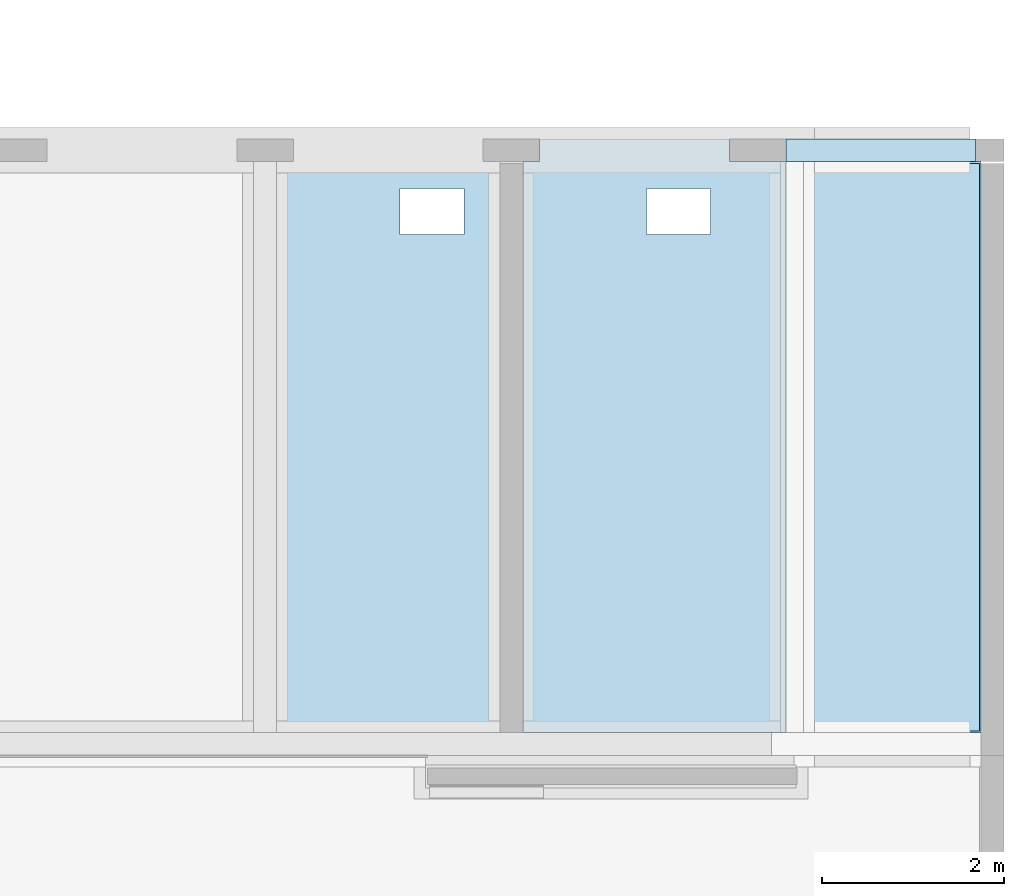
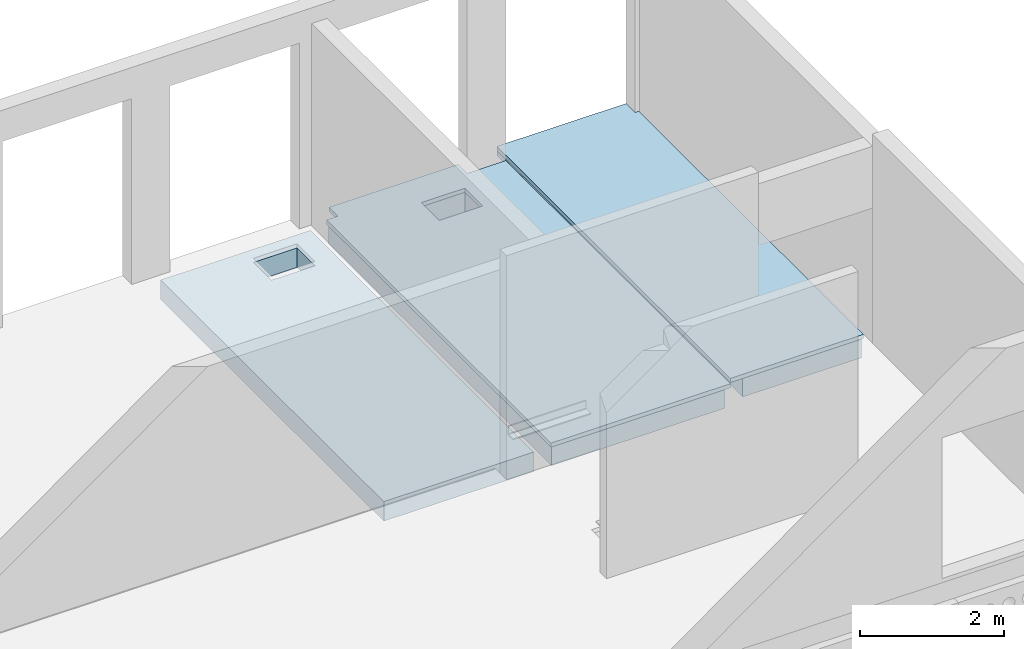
# One storey, part 34 of 60: 6 slabs, 4 openings.
"""IFC2X3 building model written with IfcOpenShell, lengths in millimetres."""

from ifc_helpers import new_model, entity, si_unit, converted_unit, derived_unit, direction, frame, frame_2d, origin, origin_2d_with_axis, place, context, subcontext, project, spatial, polyline, rectangle, outline, extrude, material, layer, layer_set, layer_usage, element, save


model = new_model("IFC2X3")

# Units and contexts
model_context = context("Model", 3, precision=0.01, world=origin(), true_north=direction((6.12303176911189e-17, 1.0)))
body_context = subcontext(model_context, "Body", "Model", "MODEL_VIEW")
ifc_project = project(units=[si_unit("LENGTHUNIT", "METRE", prefix="MILLI"), si_unit("AREAUNIT", "SQUARE_METRE"), si_unit("VOLUMEUNIT", "CUBIC_METRE"), converted_unit("PLANEANGLEUNIT", "DEGREE", entity("IfcRatioMeasure", 0.0174532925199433), si_unit("PLANEANGLEUNIT", "RADIAN"), dimensions=[0, 0, 0, 0, 0, 0, 0]), si_unit("MASSUNIT", "GRAM", prefix="KILO"), derived_unit("MASSDENSITYUNIT", [(si_unit("MASSUNIT", "GRAM", prefix="KILO"), 1), (si_unit("LENGTHUNIT", "METRE"), -3)]), si_unit("TIMEUNIT", "SECOND"), si_unit("FREQUENCYUNIT", "HERTZ"), si_unit("THERMODYNAMICTEMPERATUREUNIT", "DEGREE_CELSIUS"), derived_unit("THERMALTRANSMITTANCEUNIT", [(si_unit("MASSUNIT", "GRAM", prefix="KILO"), 1), (si_unit("THERMODYNAMICTEMPERATUREUNIT", "KELVIN"), -1), (si_unit("TIMEUNIT", "SECOND"), -3)]), derived_unit("VOLUMETRICFLOWRATEUNIT", [(si_unit("LENGTHUNIT", "METRE"), 3), (si_unit("TIMEUNIT", "SECOND"), -1)]), si_unit("ELECTRICCURRENTUNIT", "AMPERE"), si_unit("ELECTRICVOLTAGEUNIT", "VOLT"), si_unit("POWERUNIT", "WATT"), si_unit("FORCEUNIT", "NEWTON", prefix="KILO"), si_unit("ILLUMINANCEUNIT", "LUX"), si_unit("LUMINOUSFLUXUNIT", "LUMEN"), si_unit("LUMINOUSINTENSITYUNIT", "CANDELA"), derived_unit("USERDEFINED", [(si_unit("MASSUNIT", "GRAM", prefix="KILO"), -1), (si_unit("LENGTHUNIT", "METRE"), -2), (si_unit("TIMEUNIT", "SECOND"), 3), (si_unit("LUMINOUSFLUXUNIT", "LUMEN"), 1)]), derived_unit("LINEARVELOCITYUNIT", [(si_unit("LENGTHUNIT", "METRE"), 1), (si_unit("TIMEUNIT", "SECOND"), -1)]), si_unit("PRESSUREUNIT", "PASCAL"), derived_unit("USERDEFINED", [(si_unit("LENGTHUNIT", "METRE"), -2), (si_unit("MASSUNIT", "GRAM", prefix="KILO"), 1), (si_unit("TIMEUNIT", "SECOND"), -2)])], contexts=[model_context])

# Site, building, storey
site_placement = place(None, origin())
site = spatial("IfcSite", under=ifc_project, at=site_placement, Name="Default", CompositionType="ELEMENT")
building_placement = place(site_placement, origin())
building = spatial("IfcBuilding", under=site, at=building_placement, Name="niet gebruiken", CompositionType="ELEMENT")
storey_placement = place(building_placement, origin())
storey = spatial("IfcBuildingStorey", under=building, at=storey_placement, Name="00 begane grond", CompositionType="ELEMENT", Elevation=0.0)

# Slab, openings
ifc_material_1 = material(Name="NLRS_f2_beton prefab")
ifc_layer_1 = layer(ifc_material_1, 200.0)
ifc_material_2 = material(Name="NLRS_n7_isolatie EPS")
ifc_layer_2 = layer(ifc_material_2, 132.0)
ifc_layer_set_1 = layer_set([ifc_layer_1, ifc_layer_2], Name="Floor:NLRS_23.21_FL_geisoleerde kanaalplaat d=200 rc 3.5 iso132_gen")
ifc_layer_usage_1 = layer_usage(ifc_layer_set_1, "AXIS3", "POSITIVE", 0.0)
slab_1_placement = place(storey_placement, frame((116245.0, 46766.0, -492.0)))
slab_1 = element("IfcSlab", 1, at=slab_1_placement, inside=storey, material=ifc_layer_usage_1, Name="Floor:NLRS_23.21_FL_geisoleerde kanaalplaat d=200 rc 3.5 iso132_gen", ObjectType="Floor:NLRS_23.21_FL_geisoleerde kanaalplaat d=200 rc 3.5 iso132_gen", PredefinedType="FLOOR", context=body_context, shape_type="SweptSolid", body=[
    extrude(rectangle(XDim=6220.00000000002, YDim=2410.00000000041, at=frame_2d((0.0, 0.0), x_axis=(0.0, -1.0))), frame((1205.0, 3110.0, 332.0), z_axis=(0.0, 0.0, -1.0), x_axis=(-1.0, 0.0, 0.0)), (0.0, 0.0, 1.0), 332.0),
])
opening_1_placement = place(slab_1_placement, origin())
element("IfcOpeningElement", 2, at=opening_1_placement, cuts=slab_1, ObjectType="Opening", context=body_context, shape_type="SweptSolid", body=[
    extrude(rectangle(XDim=699.999999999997, YDim=499.999999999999, at=origin_2d_with_axis()), frame((1685.0, 5692.50000000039, -48.0), z_axis=(0.0, 0.0, 1.0), x_axis=(-1.0, 0.0, 0.0)), (0.0, 0.0, 1.0), 450.0),
])
opening_2_placement = place(slab_1_placement, origin())
element("IfcOpeningElement", 3, at=opening_2_placement, cuts=slab_1, ObjectType="Opening", context=body_context, shape_type="SweptSolid", body=[
    extrude(rectangle(XDim=699.999999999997, YDim=499.999999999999, at=origin_2d_with_axis()), frame((-6415.0, 5692.50000000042, -48.0), z_axis=(0.0, 0.0, 1.0), x_axis=(-1.0, 0.0, 0.0)), (0.0, 0.0, 1.0), 450.0),
])

# Slab, opening
ifc_layer_usage_2 = layer_usage(ifc_layer_set_1, "AXIS3", "POSITIVE", 0.0)
slab_2_placement = place(storey_placement, frame((118945.0, 46766.0, -492.0)))
slab_2 = element("IfcSlab", 4, at=slab_2_placement, inside=storey, material=ifc_layer_usage_2, Name="Floor:NLRS_23.21_FL_geisoleerde kanaalplaat d=200 rc 3.5 iso132_gen", ObjectType="Floor:NLRS_23.21_FL_geisoleerde kanaalplaat d=200 rc 3.5 iso132_gen", PredefinedType="FLOOR", context=body_context, shape_type="SweptSolid", body=[
    extrude(rectangle(XDim=6220.00000000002, YDim=2784.99903988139, at=frame_2d((0.0, 0.0), x_axis=(0.0, -1.0))), frame((1392.4995199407, 3110.0, 332.0), z_axis=(0.0, 0.0, -1.0), x_axis=(-1.0, 0.0, 0.0)), (0.0, 0.0, 1.0), 332.0),
])
opening_3_placement = place(slab_2_placement, origin())
element("IfcOpeningElement", 5, at=opening_3_placement, cuts=slab_2, ObjectType="Opening", context=body_context, shape_type="SweptSolid", body=[
    extrude(rectangle(XDim=699.999999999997, YDim=499.999999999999, at=origin_2d_with_axis()), frame((1685.0, 5692.5000000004, -48.0), z_axis=(0.0, 0.0, 1.0), x_axis=(-1.0, 0.0, 0.0)), (0.0, 0.0, 1.0), 450.0),
])

# Slabs
ifc_layer_usage_3 = layer_usage(ifc_layer_set_1, "AXIS3", "POSITIVE", 0.0)
slab_3_placement = place(storey_placement, origin())
element("IfcSlab", 6, at=slab_3_placement, inside=storey, material=ifc_layer_usage_3, Name="Floor:NLRS_23.21_FL_geisoleerde kanaalplaat d=200 rc 3.5 iso132_gen", ObjectType="Floor:NLRS_23.21_FL_geisoleerde kanaalplaat d=200 rc 3.5 iso132_gen", PredefinedType="FLOOR", context=body_context, shape_type="SweptSolid", body=[
    extrude(rectangle(XDim=6220.00000000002, YDim=1910.00096011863, at=origin_2d_with_axis()), frame((122974.99951994, 49876.0, -70.0), z_axis=(0.0, 0.0, -1.0), x_axis=(0.0, 1.0, 0.0)), (0.0, 0.0, 1.0), 332.0),
])
ifc_material_3 = material(Name="NLRS_f2_beton ihwg")
ifc_layer_3 = layer(ifc_material_3, 70.0)
ifc_layer_set_2 = layer_set([ifc_layer_3], Name="Floor:NLRS_23.21_FL_druklaag d=70 - gevlinderd_gen")
ifc_layer_usage_4 = layer_usage(ifc_layer_set_2, "AXIS3", "POSITIVE", 0.0)
slab_4_placement = place(storey_placement, origin())
element("IfcSlab", 7, at=slab_4_placement, inside=storey, material=ifc_layer_usage_4, Name="Floor:NLRS_23.21_FL_druklaag d=70 - gevlinderd_gen", ObjectType="Floor:NLRS_23.21_FL_druklaag d=70 - gevlinderd_gen", PredefinedType="FLOOR", context=body_context, shape_type="SweptSolid", body=[
    extrude(outline(polyline([(-4256.66666666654, -1406.66666666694), (2253.33333333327, -1406.66666666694), (2253.33333333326, 673.333333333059), (2003.33333333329, 673.333333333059), (2003.33333333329, 733.333333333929), (-4256.66666666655, 733.333333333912), (-4256.66666666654, -1406.66666666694)])), frame((123216.666666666, 51002.6666666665, 0.0), z_axis=(0.0, 0.0, -1.0), x_axis=(0.0, 1.0, 0.0)), (0.0, 0.0, 1.0), 70.0),
])

# Slab, opening
ifc_layer_4 = layer(ifc_material_3, 70.0)
ifc_layer_set_3 = layer_set([ifc_layer_4], Name="Floor:NLRS_23.21_FL_druklaag d=70_gen")
ifc_layer_usage_5 = layer_usage(ifc_layer_set_3, "AXIS3", "POSITIVE", 0.0)
slab_5_placement = place(storey_placement, frame((118925.0, 46746.0, -160.0)))
slab_5 = element("IfcSlab", 8, at=slab_5_placement, inside=storey, material=ifc_layer_usage_5, Name="Floor:NLRS_23.21_FL_druklaag d=70_gen", ObjectType="Floor:NLRS_23.21_FL_druklaag d=70_gen", PredefinedType="FLOOR", context=body_context, shape_type="SweptSolid", body=[
    extrude(outline(polyline([(1257.49999999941, 3255.0), (-822.500000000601, 3255.0), (-822.500000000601, 3005.0), (-1442.49999999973, 3005.0), (-1442.49999999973, -3255.0), (1442.49999999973, -3255.0), (1442.49999999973, 3005.0), (1257.49999999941, 3005.0), (1257.49999999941, 3255.0)])), frame((1442.49999999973, 3255.0, 70.0), z_axis=(0.0, 0.0, -1.0), x_axis=(-1.0, 0.0, 0.0)), (0.0, 0.0, 1.0), 70.0),
])
opening_4_placement = place(slab_5_placement, origin())
element("IfcOpeningElement", 9, at=opening_4_placement, cuts=slab_5, ObjectType="Opening", context=body_context, shape_type="SweptSolid", body=[
    extrude(rectangle(XDim=699.999999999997, YDim=499.999999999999, at=origin_2d_with_axis()), frame((1705.0, 5712.50000000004, -380.0), z_axis=(0.0, 0.0, 1.0), x_axis=(-1.0, 0.0, 0.0)), (0.0, 0.0, 1.0), 450.0),
])

# Slab
ifc_layer_5 = layer(ifc_material_3, 90.0)
ifc_layer_set_4 = layer_set([ifc_layer_5], Name="Floor:NLRS_23.21_FL_beton ihwg d=90_gen")
ifc_layer_usage_6 = layer_usage(ifc_layer_set_4, "AXIS3", "POSITIVE", 0.0)
slab_6_placement = place(storey_placement, origin())
element("IfcSlab", 10, at=slab_6_placement, inside=storey, material=ifc_layer_usage_6, Name="Floor:NLRS_23.21_FL_beton ihwg d=90_gen", ObjectType="Floor:NLRS_23.21_FL_beton ihwg d=90_gen", PredefinedType="FLOOR", context=body_context, shape_type="SweptSolid", body=[
    extrude(rectangle(XDim=249.999999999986, YDim=2080.0, at=frame_2d((4.32720526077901e-12, 8.64019966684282e-12), x_axis=(1.0, 0.0))), frame((122850.0, 53131.0, -70.0), z_axis=(0.0, 0.0, -1.0), x_axis=(0.0, 1.0, 0.0)), (0.0, 0.0, 1.0), 90.0),
])

save(model, "model.ifc")
